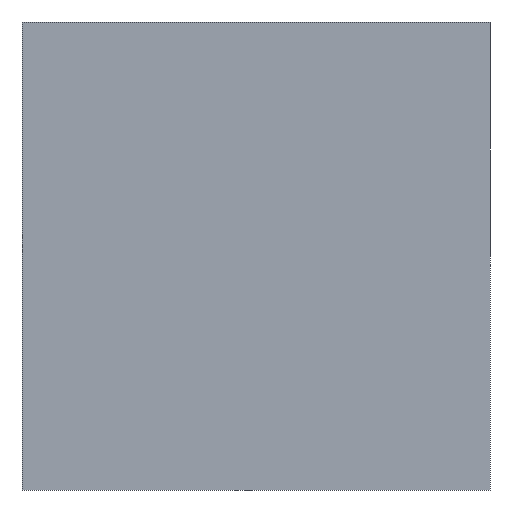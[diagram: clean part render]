
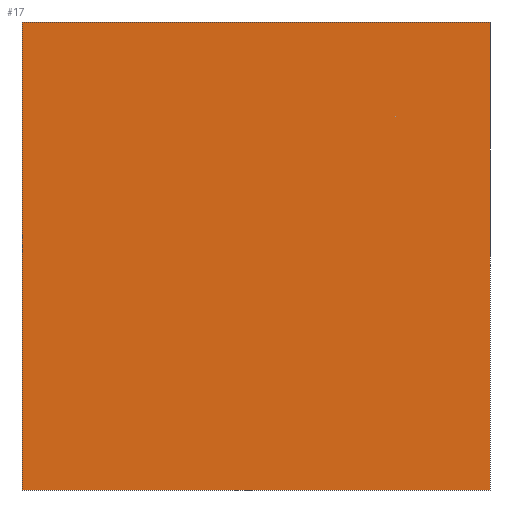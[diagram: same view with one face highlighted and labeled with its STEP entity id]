
A CAD part, left-side view. The second image highlights one B-rep face of the part: STEP entity #17.
In plain terms, the highlighted planar face has unit normal (-1, 0, 0).
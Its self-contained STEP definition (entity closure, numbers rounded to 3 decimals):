
#17 = ADVANCED_FACE('',(#18),#32,.F.);
#18 = FACE_BOUND('',#19,.F.);
#19 = EDGE_LOOP('',(#20,#55,#83,#111));
#20 = ORIENTED_EDGE('',*,*,#21,.F.);
#21 = EDGE_CURVE('',#22,#24,#26,.T.);
#22 = VERTEX_POINT('',#23);
#23 = CARTESIAN_POINT('',(37.6,-1.8,-11.));
#24 = VERTEX_POINT('',#25);
#25 = CARTESIAN_POINT('',(37.6,-1.8,-7.4));
#26 = SURFACE_CURVE('',#27,(#31,#43),.PCURVE_S1.);
#27 = LINE('',#28,#29);
#28 = CARTESIAN_POINT('',(37.6,-1.8,-11.));
#29 = VECTOR('',#30,1.);
#30 = DIRECTION('',(0.,0.,1.));
#31 = PCURVE('',#32,#37);
#32 = PLANE('',#33);
#33 = AXIS2_PLACEMENT_3D('',#34,#35,#36);
#34 = CARTESIAN_POINT('',(37.6,-1.8,-11.));
#35 = DIRECTION('',(1.,0.,0.));
#36 = DIRECTION('',(0.,0.,1.));
#37 = DEFINITIONAL_REPRESENTATION('',(#38),#42);
#38 = LINE('',#39,#40);
#39 = CARTESIAN_POINT('',(0.,0.));
#40 = VECTOR('',#41,1.);
#41 = DIRECTION('',(1.,0.));
#42 = ( GEOMETRIC_REPRESENTATION_CONTEXT(2) 
PARAMETRIC_REPRESENTATION_CONTEXT() REPRESENTATION_CONTEXT('2D SPACE',''
  ) );
#43 = PCURVE('',#44,#49);
#44 = PLANE('',#45);
#45 = AXIS2_PLACEMENT_3D('',#46,#47,#48);
#46 = CARTESIAN_POINT('',(37.6,-1.8,-11.));
#47 = DIRECTION('',(0.,1.,0.));
#48 = DIRECTION('',(0.,0.,1.));
#49 = DEFINITIONAL_REPRESENTATION('',(#50),#54);
#50 = LINE('',#51,#52);
#51 = CARTESIAN_POINT('',(0.,0.));
#52 = VECTOR('',#53,1.);
#53 = DIRECTION('',(1.,0.));
#54 = ( GEOMETRIC_REPRESENTATION_CONTEXT(2) 
PARAMETRIC_REPRESENTATION_CONTEXT() REPRESENTATION_CONTEXT('2D SPACE',''
  ) );
#55 = ORIENTED_EDGE('',*,*,#56,.T.);
#56 = EDGE_CURVE('',#22,#57,#59,.T.);
#57 = VERTEX_POINT('',#58);
#58 = CARTESIAN_POINT('',(37.6,1.8,-11.));
#59 = SURFACE_CURVE('',#60,(#64,#71),.PCURVE_S1.);
#60 = LINE('',#61,#62);
#61 = CARTESIAN_POINT('',(37.6,-1.8,-11.));
#62 = VECTOR('',#63,1.);
#63 = DIRECTION('',(0.,1.,0.));
#64 = PCURVE('',#32,#65);
#65 = DEFINITIONAL_REPRESENTATION('',(#66),#70);
#66 = LINE('',#67,#68);
#67 = CARTESIAN_POINT('',(0.,0.));
#68 = VECTOR('',#69,1.);
#69 = DIRECTION('',(0.,-1.));
#70 = ( GEOMETRIC_REPRESENTATION_CONTEXT(2) 
PARAMETRIC_REPRESENTATION_CONTEXT() REPRESENTATION_CONTEXT('2D SPACE',''
  ) );
#71 = PCURVE('',#72,#77);
#72 = PLANE('',#73);
#73 = AXIS2_PLACEMENT_3D('',#74,#75,#76);
#74 = CARTESIAN_POINT('',(37.6,-1.8,-11.));
#75 = DIRECTION('',(0.,0.,1.));
#76 = DIRECTION('',(1.,0.,0.));
#77 = DEFINITIONAL_REPRESENTATION('',(#78),#82);
#78 = LINE('',#79,#80);
#79 = CARTESIAN_POINT('',(0.,0.));
#80 = VECTOR('',#81,1.);
#81 = DIRECTION('',(0.,1.));
#82 = ( GEOMETRIC_REPRESENTATION_CONTEXT(2) 
PARAMETRIC_REPRESENTATION_CONTEXT() REPRESENTATION_CONTEXT('2D SPACE',''
  ) );
#83 = ORIENTED_EDGE('',*,*,#84,.T.);
#84 = EDGE_CURVE('',#57,#85,#87,.T.);
#85 = VERTEX_POINT('',#86);
#86 = CARTESIAN_POINT('',(37.6,1.8,-7.4));
#87 = SURFACE_CURVE('',#88,(#92,#99),.PCURVE_S1.);
#88 = LINE('',#89,#90);
#89 = CARTESIAN_POINT('',(37.6,1.8,-11.));
#90 = VECTOR('',#91,1.);
#91 = DIRECTION('',(0.,0.,1.));
#92 = PCURVE('',#32,#93);
#93 = DEFINITIONAL_REPRESENTATION('',(#94),#98);
#94 = LINE('',#95,#96);
#95 = CARTESIAN_POINT('',(0.,-3.6));
#96 = VECTOR('',#97,1.);
#97 = DIRECTION('',(1.,0.));
#98 = ( GEOMETRIC_REPRESENTATION_CONTEXT(2) 
PARAMETRIC_REPRESENTATION_CONTEXT() REPRESENTATION_CONTEXT('2D SPACE',''
  ) );
#99 = PCURVE('',#100,#105);
#100 = PLANE('',#101);
#101 = AXIS2_PLACEMENT_3D('',#102,#103,#104);
#102 = CARTESIAN_POINT('',(37.6,1.8,-11.));
#103 = DIRECTION('',(0.,1.,0.));
#104 = DIRECTION('',(0.,0.,1.));
#105 = DEFINITIONAL_REPRESENTATION('',(#106),#110);
#106 = LINE('',#107,#108);
#107 = CARTESIAN_POINT('',(0.,0.));
#108 = VECTOR('',#109,1.);
#109 = DIRECTION('',(1.,0.));
#110 = ( GEOMETRIC_REPRESENTATION_CONTEXT(2) 
PARAMETRIC_REPRESENTATION_CONTEXT() REPRESENTATION_CONTEXT('2D SPACE',''
  ) );
#111 = ORIENTED_EDGE('',*,*,#112,.F.);
#112 = EDGE_CURVE('',#24,#85,#113,.T.);
#113 = SURFACE_CURVE('',#114,(#118,#125),.PCURVE_S1.);
#114 = LINE('',#115,#116);
#115 = CARTESIAN_POINT('',(37.6,-1.8,-7.4));
#116 = VECTOR('',#117,1.);
#117 = DIRECTION('',(0.,1.,0.));
#118 = PCURVE('',#32,#119);
#119 = DEFINITIONAL_REPRESENTATION('',(#120),#124);
#120 = LINE('',#121,#122);
#121 = CARTESIAN_POINT('',(3.6,0.));
#122 = VECTOR('',#123,1.);
#123 = DIRECTION('',(0.,-1.));
#124 = ( GEOMETRIC_REPRESENTATION_CONTEXT(2) 
PARAMETRIC_REPRESENTATION_CONTEXT() REPRESENTATION_CONTEXT('2D SPACE',''
  ) );
#125 = PCURVE('',#126,#131);
#126 = PLANE('',#127);
#127 = AXIS2_PLACEMENT_3D('',#128,#129,#130);
#128 = CARTESIAN_POINT('',(37.6,-1.8,-7.4));
#129 = DIRECTION('',(0.,0.,1.));
#130 = DIRECTION('',(1.,0.,0.));
#131 = DEFINITIONAL_REPRESENTATION('',(#132),#136);
#132 = LINE('',#133,#134);
#133 = CARTESIAN_POINT('',(0.,0.));
#134 = VECTOR('',#135,1.);
#135 = DIRECTION('',(0.,1.));
#136 = ( GEOMETRIC_REPRESENTATION_CONTEXT(2) 
PARAMETRIC_REPRESENTATION_CONTEXT() REPRESENTATION_CONTEXT('2D SPACE',''
  ) );
